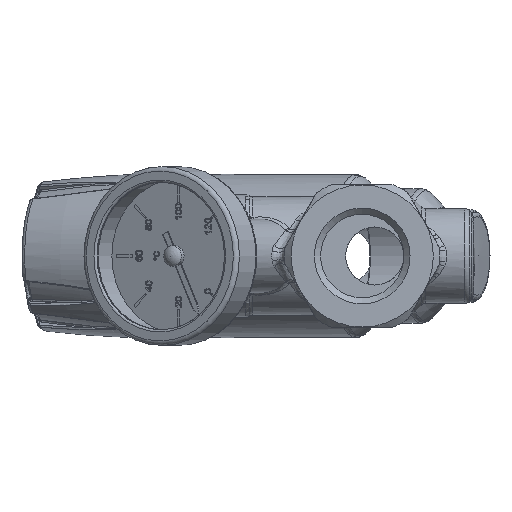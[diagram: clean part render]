
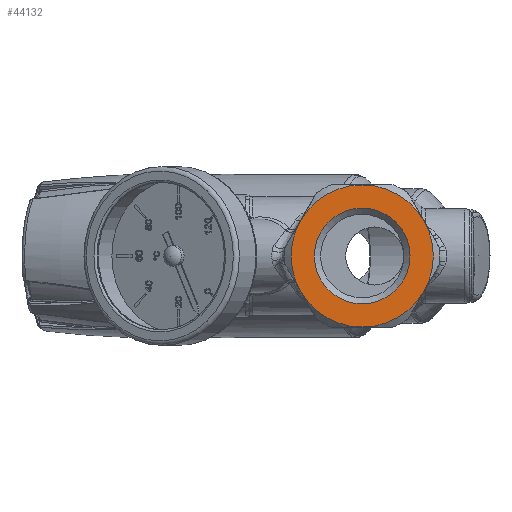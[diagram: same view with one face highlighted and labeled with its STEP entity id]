
A CAD part, left-side view. The second image highlights one B-rep face of the part: STEP entity #44132.
In plain terms, the highlighted planar face has unit normal (-1, 0, 0).
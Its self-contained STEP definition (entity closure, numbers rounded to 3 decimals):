
#1179=PLANE('',#46635);
#4841=CIRCLE('',#46622,15.9);
#4842=CIRCLE('',#46624,15.9);
#4843=CIRCLE('',#46626,15.9);
#4844=CIRCLE('',#46628,15.9);
#4845=CIRCLE('',#46630,15.9);
#4847=CIRCLE('',#46634,10.7);
#4848=CIRCLE('',#46636,15.9);
#9044=ORIENTED_EDGE('',*,*,#18390,.T.);
#9045=ORIENTED_EDGE('',*,*,#18394,.T.);
#9046=ORIENTED_EDGE('',*,*,#18391,.T.);
#9047=ORIENTED_EDGE('',*,*,#18388,.T.);
#9048=ORIENTED_EDGE('',*,*,#18387,.T.);
#9049=ORIENTED_EDGE('',*,*,#18389,.T.);
#9050=ORIENTED_EDGE('',*,*,#18393,.F.);
#18387=EDGE_CURVE('',#22403,#22432,#4841,.T.);
#18388=EDGE_CURVE('',#22396,#22403,#4842,.T.);
#18389=EDGE_CURVE('',#22432,#22443,#4843,.T.);
#18390=EDGE_CURVE('',#22443,#22371,#4844,.T.);
#18391=EDGE_CURVE('',#22464,#22396,#4845,.T.);
#18393=EDGE_CURVE('',#23200,#23200,#4847,.T.);
#18394=EDGE_CURVE('',#22371,#22464,#4848,.T.);
#22371=VERTEX_POINT('',#57659);
#22396=VERTEX_POINT('',#57773);
#22403=VERTEX_POINT('',#57795);
#22432=VERTEX_POINT('',#57888);
#22443=VERTEX_POINT('',#57937);
#22464=VERTEX_POINT('',#58000);
#23200=VERTEX_POINT('',#71348);
#28846=EDGE_LOOP('',(#9044,#9045,#9046,#9047,#9048,#9049));
#28847=EDGE_LOOP('',(#9050));
#31277=FACE_BOUND('',#28846,.T.);
#31278=FACE_BOUND('',#28847,.T.);
#44132=ADVANCED_FACE('',(#31277,#31278),#1179,.T.);
#46622=AXIS2_PLACEMENT_3D('',#71334,#51279,#51280);
#46624=AXIS2_PLACEMENT_3D('',#71336,#51283,#51284);
#46626=AXIS2_PLACEMENT_3D('',#71338,#51287,#51288);
#46628=AXIS2_PLACEMENT_3D('',#71340,#51291,#51292);
#46630=AXIS2_PLACEMENT_3D('',#71342,#51295,#51296);
#46634=AXIS2_PLACEMENT_3D('',#71347,#51303,#51304);
#46635=AXIS2_PLACEMENT_3D('',#71349,#51305,#51306);
#46636=AXIS2_PLACEMENT_3D('',#71350,#51307,#51308);
#51279=DIRECTION('',(-1.,0.,0.));
#51280=DIRECTION('',(0.,-1.,0.));
#51283=DIRECTION('',(-1.,0.,0.));
#51284=DIRECTION('',(0.,-1.,0.));
#51287=DIRECTION('',(-1.,0.,0.));
#51288=DIRECTION('',(0.,-1.,0.));
#51291=DIRECTION('',(-1.,0.,0.));
#51292=DIRECTION('',(0.,-1.,0.));
#51295=DIRECTION('',(-1.,0.,0.));
#51296=DIRECTION('',(0.,-1.,0.));
#51303=DIRECTION('',(-1.,0.,0.));
#51304=DIRECTION('',(0.,-1.,0.));
#51305=DIRECTION('',(-1.,0.,0.));
#51306=DIRECTION('',(0.,-1.,0.));
#51307=DIRECTION('',(-1.,0.,0.));
#51308=DIRECTION('',(0.,-1.,0.));
#57659=CARTESIAN_POINT('',(-27.,13.77,-7.95));
#57773=CARTESIAN_POINT('',(-27.,-13.77,-7.95));
#57795=CARTESIAN_POINT('',(-27.,-13.77,7.95));
#57888=CARTESIAN_POINT('',(-27.,0.,15.9));
#57937=CARTESIAN_POINT('',(-27.,13.77,7.95));
#58000=CARTESIAN_POINT('',(-27.,0.,-15.9));
#71334=CARTESIAN_POINT('',(-27.,0.,0.));
#71336=CARTESIAN_POINT('',(-27.,0.,0.));
#71338=CARTESIAN_POINT('',(-27.,0.,0.));
#71340=CARTESIAN_POINT('',(-27.,0.,0.));
#71342=CARTESIAN_POINT('',(-27.,0.,0.));
#71347=CARTESIAN_POINT('',(-27.,0.,0.));
#71348=CARTESIAN_POINT('',(-27.,-10.7,0.));
#71349=CARTESIAN_POINT('',(-27.,15.9,0.));
#71350=CARTESIAN_POINT('',(-27.,0.,0.));
